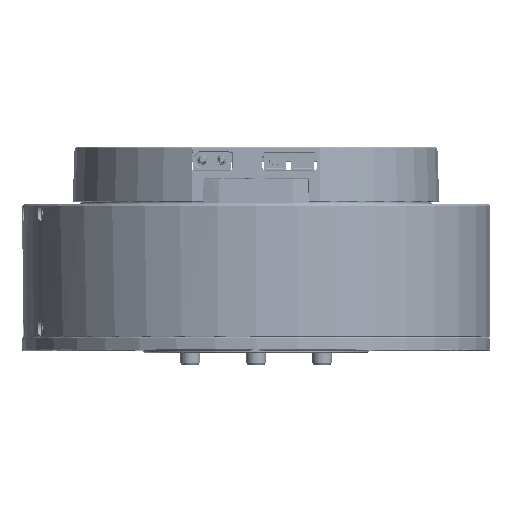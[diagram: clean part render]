
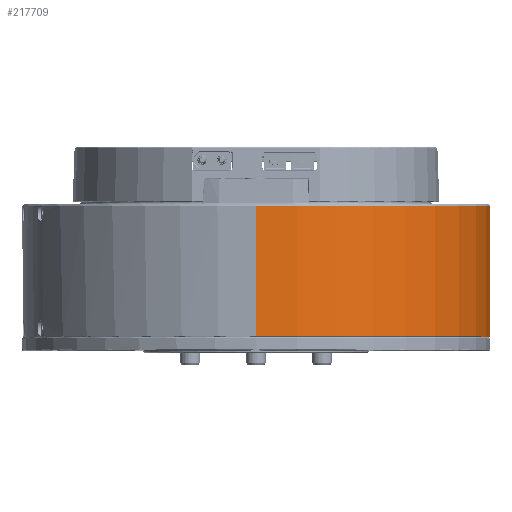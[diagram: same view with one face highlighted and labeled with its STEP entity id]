
A CAD part, top view. The second image highlights one B-rep face of the part: STEP entity #217709.
In plain terms, the highlighted cylindrical face has radius 60 mm (diameter 120 mm), a partial arc.
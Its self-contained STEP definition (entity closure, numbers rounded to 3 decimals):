
#4517 = CARTESIAN_POINT ( 'NONE',  ( 0., -61.935, -60. ) ) ;
#10203 = CARTESIAN_POINT ( 'NONE',  ( 0., -61.735, -60. ) ) ;
#19365 = DIRECTION ( 'NONE',  ( 0., 0., -1. ) ) ;
#27141 = ORIENTED_EDGE ( 'NONE', *, *, #68417, .T. ) ;
#30256 = CIRCLE ( 'NONE', #68407, 60. ) ;
#30979 = DIRECTION ( 'NONE',  ( 0., -1., 0. ) ) ;
#37468 = ORIENTED_EDGE ( 'NONE', *, *, #101892, .F. ) ;
#50267 = VERTEX_POINT ( 'NONE', #98516 ) ;
#56571 = CYLINDRICAL_SURFACE ( 'NONE', #157055, 60. ) ;
#59936 = DIRECTION ( 'NONE',  ( 0., -1., 0. ) ) ;
#64489 = CARTESIAN_POINT ( 'NONE',  ( 0., -28.235, 60. ) ) ;
#68407 = AXIS2_PLACEMENT_3D ( 'NONE', #277170, #136377, #134318 ) ;
#68417 = EDGE_CURVE ( 'NONE', #50267, #194128, #286950, .T. ) ;
#88247 = ORIENTED_EDGE ( 'NONE', *, *, #121594, .T. ) ;
#98516 = CARTESIAN_POINT ( 'NONE',  ( 0., -28.235, -60. ) ) ;
#101892 = EDGE_CURVE ( 'NONE', #50267, #109214, #166222, .T. ) ;
#104796 = EDGE_CURVE ( 'NONE', #239335, #109214, #30256, .T. ) ;
#108947 = DIRECTION ( 'NONE',  ( 0., 0., -1. ) ) ;
#109214 = VERTEX_POINT ( 'NONE', #10203 ) ;
#121594 = EDGE_CURVE ( 'NONE', #194128, #239335, #155738, .T. ) ;
#127001 = CARTESIAN_POINT ( 'NONE',  ( 0., -61.935, 60. ) ) ;
#134318 = DIRECTION ( 'NONE',  ( 0., 0., 1. ) ) ;
#136377 = DIRECTION ( 'NONE',  ( 0., 1., 0. ) ) ;
#153433 = AXIS2_PLACEMENT_3D ( 'NONE', #155037, #59936, #108947 ) ;
#155037 = CARTESIAN_POINT ( 'NONE',  ( 0., -28.235, 0. ) ) ;
#155738 = LINE ( 'NONE', #127001, #230289 ) ;
#157055 = AXIS2_PLACEMENT_3D ( 'NONE', #305244, #162426, #19365 ) ;
#158346 = CARTESIAN_POINT ( 'NONE',  ( 0., -61.735, 60. ) ) ;
#158760 = VECTOR ( 'NONE', #195498, 1000. ) ;
#161228 = ORIENTED_EDGE ( 'NONE', *, *, #104796, .T. ) ;
#162426 = DIRECTION ( 'NONE',  ( 0., -1., 0. ) ) ;
#166222 = LINE ( 'NONE', #4517, #158760 ) ;
#194128 = VERTEX_POINT ( 'NONE', #64489 ) ;
#195498 = DIRECTION ( 'NONE',  ( 0., -1., 0. ) ) ;
#204237 = EDGE_LOOP ( 'NONE', ( #27141, #88247, #161228, #37468 ) ) ;
#217709 = ADVANCED_FACE ( 'NONE', ( #228561 ), #56571, .T. ) ;
#228561 = FACE_OUTER_BOUND ( 'NONE', #204237, .T. ) ;
#230289 = VECTOR ( 'NONE', #30979, 1000. ) ;
#239335 = VERTEX_POINT ( 'NONE', #158346 ) ;
#277170 = CARTESIAN_POINT ( 'NONE',  ( 0., -61.735, 0. ) ) ;
#286950 = CIRCLE ( 'NONE', #153433, 60. ) ;
#305244 = CARTESIAN_POINT ( 'NONE',  ( 0., -61.935, 0. ) ) ;
